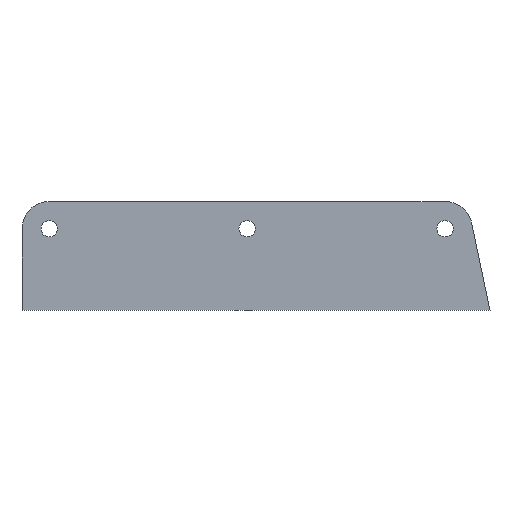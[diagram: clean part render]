
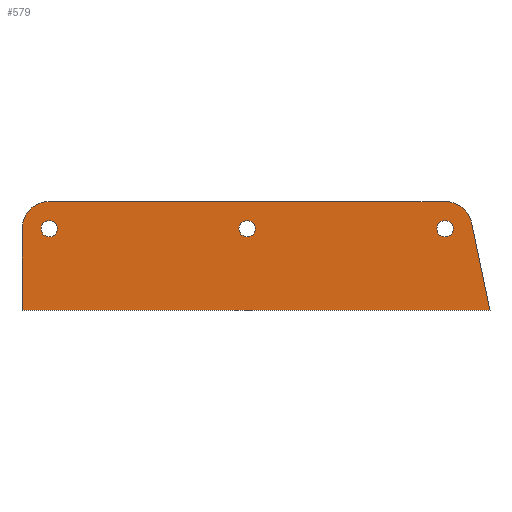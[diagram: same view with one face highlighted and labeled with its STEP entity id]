
A CAD part, top view. The second image highlights one B-rep face of the part: STEP entity #579.
In plain terms, the highlighted planar face has unit normal (0, 0, 1).
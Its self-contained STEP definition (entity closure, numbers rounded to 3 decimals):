
#263=CIRCLE('',#547,15.);
#265=CIRCLE('',#553,15.);
#269=CIRCLE('',#559,4.5);
#270=CIRCLE('',#561,4.5);
#271=CIRCLE('',#562,4.5);
#312=ORIENTED_EDGE('',*,*,#374,.F.);
#313=ORIENTED_EDGE('',*,*,#388,.F.);
#314=ORIENTED_EDGE('',*,*,#386,.F.);
#315=ORIENTED_EDGE('',*,*,#383,.F.);
#316=ORIENTED_EDGE('',*,*,#380,.F.);
#317=ORIENTED_EDGE('',*,*,#377,.F.);
#318=ORIENTED_EDGE('',*,*,#392,.F.);
#319=ORIENTED_EDGE('',*,*,#393,.F.);
#320=ORIENTED_EDGE('',*,*,#394,.F.);
#328=VECTOR('',#440,1.);
#332=VECTOR('',#452,1.);
#335=VECTOR('',#457,1.);
#338=VECTOR('',#462,1.);
#342=LINE('',#499,#328);
#346=LINE('',#511,#332);
#349=LINE('',#517,#335);
#352=LINE('',#523,#338);
#354=VERTEX_POINT('',#493);
#356=VERTEX_POINT('',#497);
#358=VERTEX_POINT('',#502);
#360=VERTEX_POINT('',#508);
#362=VERTEX_POINT('',#514);
#364=VERTEX_POINT('',#520);
#368=VERTEX_POINT('',#535);
#369=VERTEX_POINT('',#538);
#370=VERTEX_POINT('',#540);
#374=EDGE_CURVE('',#356,#354,#342,.T.);
#377=EDGE_CURVE('',#354,#358,#263,.T.);
#380=EDGE_CURVE('',#358,#360,#346,.T.);
#383=EDGE_CURVE('',#360,#362,#349,.T.);
#386=EDGE_CURVE('',#362,#364,#352,.T.);
#388=EDGE_CURVE('',#364,#356,#265,.T.);
#392=EDGE_CURVE('',#368,#368,#269,.T.);
#393=EDGE_CURVE('',#369,#369,#270,.T.);
#394=EDGE_CURVE('',#370,#370,#271,.T.);
#407=EDGE_LOOP('',(#312,#313,#314,#315,#316,#317));
#408=EDGE_LOOP('',(#318));
#409=EDGE_LOOP('',(#319));
#410=EDGE_LOOP('',(#320));
#427=FACE_BOUND('',#407,.T.);
#428=FACE_BOUND('',#408,.T.);
#429=FACE_BOUND('',#409,.T.);
#430=FACE_BOUND('',#410,.T.);
#440=DIRECTION('',(218.03,0.,0.));
#446=DIRECTION('',(0.,0.,-1.));
#447=DIRECTION('',(0.,-15.,0.));
#452=DIRECTION('',(10.081,-48.078,0.));
#457=DIRECTION('',(-257.792,0.,0.));
#462=DIRECTION('',(0.,45.,0.));
#467=DIRECTION('',(0.,0.,-1.));
#468=DIRECTION('',(0.,-15.,0.));
#479=DIRECTION('',(0.,0.,1.));
#480=DIRECTION('',(0.,-4.5,0.));
#481=DIRECTION('',(0.,0.,1.));
#482=DIRECTION('',(0.,-1.,0.));
#483=DIRECTION('',(0.,0.,1.));
#484=DIRECTION('',(0.,-4.5,0.));
#485=DIRECTION('',(0.,0.,1.));
#486=DIRECTION('',(0.,-4.5,0.));
#493=CARTESIAN_POINT('',(7025.034,13006.36,8.));
#497=CARTESIAN_POINT('',(6807.004,13006.36,8.));
#499=CARTESIAN_POINT('',(6807.004,13006.36,8.));
#502=CARTESIAN_POINT('',(7039.715,12994.438,8.));
#505=CARTESIAN_POINT('',(7025.034,12991.36,8.));
#508=CARTESIAN_POINT('',(7049.795,12946.36,8.));
#511=CARTESIAN_POINT('',(7039.715,12994.438,8.));
#514=CARTESIAN_POINT('',(6792.004,12946.36,8.));
#517=CARTESIAN_POINT('',(7049.795,12946.36,8.));
#520=CARTESIAN_POINT('',(6792.004,12991.36,8.));
#523=CARTESIAN_POINT('',(6792.004,12946.36,8.));
#526=CARTESIAN_POINT('',(6807.004,12991.36,8.));
#535=CARTESIAN_POINT('',(6807.004,12986.86,8.));
#536=CARTESIAN_POINT('',(6807.004,12991.36,8.));
#537=CARTESIAN_POINT('',(0.,0.,8.));
#538=CARTESIAN_POINT('',(7025.034,12986.86,8.));
#539=CARTESIAN_POINT('',(7025.034,12991.36,8.));
#540=CARTESIAN_POINT('',(6916.019,12986.86,8.));
#541=CARTESIAN_POINT('',(6916.019,12991.36,8.));
#547=AXIS2_PLACEMENT_3D('',#505,#446,#447);
#553=AXIS2_PLACEMENT_3D('',#526,#467,#468);
#559=AXIS2_PLACEMENT_3D('',#536,#479,#480);
#560=AXIS2_PLACEMENT_3D('',#537,#481,#482);
#561=AXIS2_PLACEMENT_3D('',#539,#483,#484);
#562=AXIS2_PLACEMENT_3D('',#541,#485,#486);
#570=PLANE('',#560);
#579=ADVANCED_FACE('',(#427,#428,#429,#430),#570,.T.);
